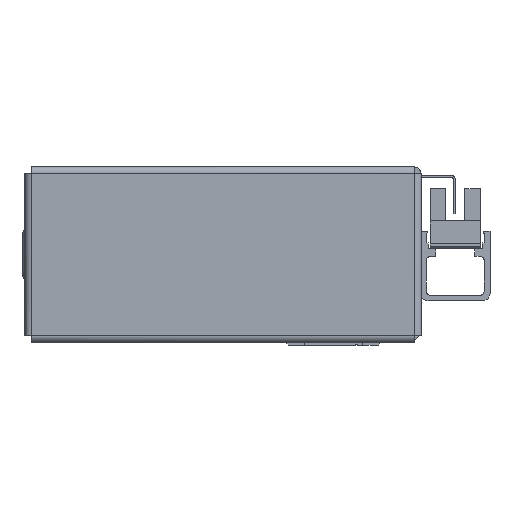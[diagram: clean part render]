
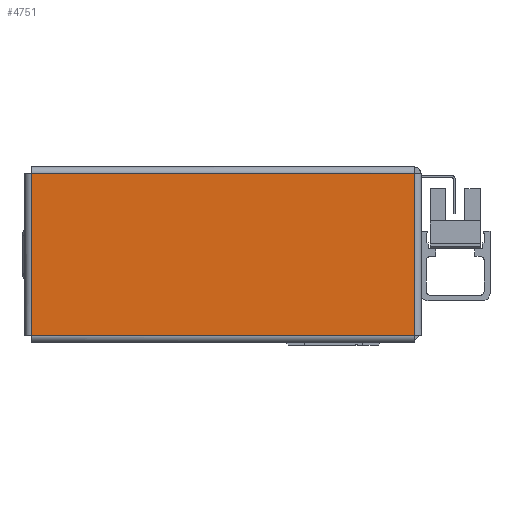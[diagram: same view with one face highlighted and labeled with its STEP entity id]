
A CAD part, left-side view. The second image highlights one B-rep face of the part: STEP entity #4751.
In plain terms, the highlighted planar face has unit normal (-1, 0, 0) as drawn and (0, 0, -1) by its records, which use the part's own axes.
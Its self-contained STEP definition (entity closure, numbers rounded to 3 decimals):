
#1259 = VERTEX_POINT ( 'NONE', #27373 ) ;
#2199 = VECTOR ( 'NONE', #22086, 1000. ) ;
#2282 = ORIENTED_EDGE ( 'NONE', *, *, #22307, .T. ) ;
#2795 = ORIENTED_EDGE ( 'NONE', *, *, #22396, .T. ) ;
#2830 = ORIENTED_EDGE ( 'NONE', *, *, #22400, .T. ) ;
#3189 = CARTESIAN_POINT ( 'NONE',  ( -49.543, 21.013, -1. ) ) ;
#3236 = ORIENTED_EDGE ( 'NONE', *, *, #22495, .T. ) ;
#4320 = DIRECTION ( 'NONE',  ( 0., 0., 1. ) ) ;
#4751 = ADVANCED_FACE ( 'NONE', ( #24647 ), #18197, .F. ) ;
#6058 = CARTESIAN_POINT ( 'NONE',  ( 49.513, 21.043, -1. ) ) ;
#6218 = VECTOR ( 'NONE', #17120, 1000. ) ;
#7708 = AXIS2_PLACEMENT_3D ( 'NONE', #12668, #4320, #23470 ) ;
#9804 = LINE ( 'NONE', #32063, #2199 ) ;
#11076 = LINE ( 'NONE', #32785, #31171 ) ;
#11704 = DIRECTION ( 'NONE',  ( 0., -1., 0. ) ) ;
#12216 = VERTEX_POINT ( 'NONE', #30569 ) ;
#12668 = CARTESIAN_POINT ( 'NONE',  ( 0., 0., -1. ) ) ;
#17120 = DIRECTION ( 'NONE',  ( 1., 0., 0. ) ) ;
#18012 = VERTEX_POINT ( 'NONE', #29052 ) ;
#18197 = PLANE ( 'NONE',  #7708 ) ;
#20831 = LINE ( 'NONE', #6058, #34101 ) ;
#22086 = DIRECTION ( 'NONE',  ( 0., 1., 0. ) ) ;
#22307 = EDGE_CURVE ( 'NONE', #18012, #28935, #9804, .T. ) ;
#22396 = EDGE_CURVE ( 'NONE', #28935, #1259, #29341, .T. ) ;
#22400 = EDGE_CURVE ( 'NONE', #1259, #12216, #20831, .T. ) ;
#22495 = EDGE_CURVE ( 'NONE', #12216, #18012, #11076, .T. ) ;
#23470 = DIRECTION ( 'NONE',  ( 1., 0., 0. ) ) ;
#24647 = FACE_OUTER_BOUND ( 'NONE', #27917, .T. ) ;
#25353 = CARTESIAN_POINT ( 'NONE',  ( -49.513, 21.013, -1. ) ) ;
#27373 = CARTESIAN_POINT ( 'NONE',  ( 49.513, 21.013, -1. ) ) ;
#27917 = EDGE_LOOP ( 'NONE', ( #2282, #2795, #2830, #3236 ) ) ;
#28165 = DIRECTION ( 'NONE',  ( -1., 0., 0. ) ) ;
#28935 = VERTEX_POINT ( 'NONE', #25353 ) ;
#29052 = CARTESIAN_POINT ( 'NONE',  ( -49.513, -21.013, -1. ) ) ;
#29341 = LINE ( 'NONE', #3189, #6218 ) ;
#30569 = CARTESIAN_POINT ( 'NONE',  ( 49.513, -21.013, -1. ) ) ;
#31171 = VECTOR ( 'NONE', #28165, 1000. ) ;
#32063 = CARTESIAN_POINT ( 'NONE',  ( -49.513, -21.043, -1. ) ) ;
#32785 = CARTESIAN_POINT ( 'NONE',  ( 49.543, -21.013, -1. ) ) ;
#34101 = VECTOR ( 'NONE', #11704, 1000. ) ;
